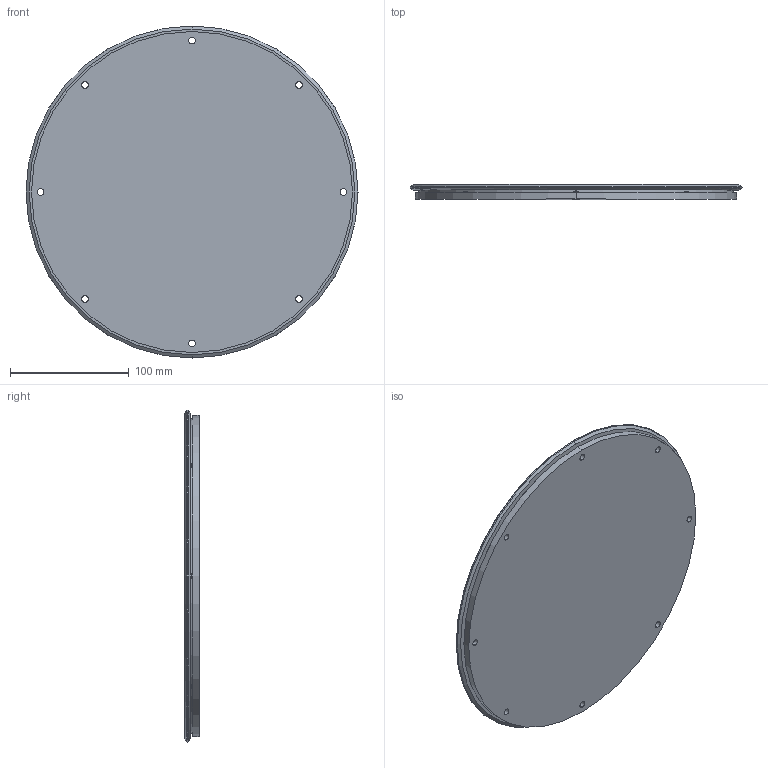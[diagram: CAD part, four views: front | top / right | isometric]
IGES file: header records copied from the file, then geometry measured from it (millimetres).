
Start section: 3D InterOp IGES (v. 2020 1.0.1), Spatial Corp. Copyright (c) 1999-2017.
Global section: file name: rd25_255_l.igs; native system: Spatial Corp.; preprocessor: 3D InterOp ACIS/IGES; author: TraceParts; organization: TraceParts S.A.; date: 20220624.041424; units: millimetre
Bounding box: 279.61 x 12.25 x 279.61 mm (x, y, z)
Surface area: 141878.4 mm2 (no closed solid volume)
Topology: 0 solids, 0 shells, 63 faces, 280 edges, 280 vertices
Faces by surface type: revolution 50, extrusion 13
